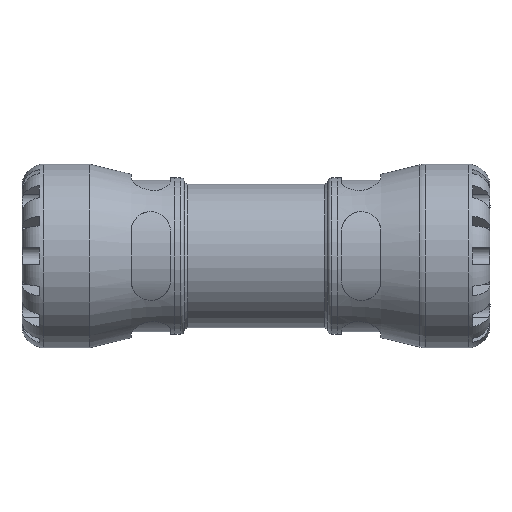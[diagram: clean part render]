
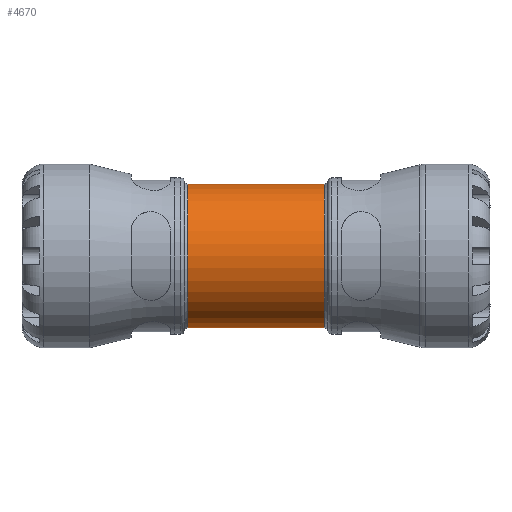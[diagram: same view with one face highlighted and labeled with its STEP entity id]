
A CAD part, front view. The second image highlights one B-rep face of the part: STEP entity #4670.
In plain terms, the highlighted cylindrical face has radius 40.17 mm (diameter 80.34 mm), a full revolution.
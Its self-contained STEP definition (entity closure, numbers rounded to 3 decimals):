
#684=FACE_BOUND('',#1119,.T.);
#685=FACE_BOUND('',#1120,.T.);
#732=CYLINDRICAL_SURFACE('',#4960,40.17);
#830=FACE_OUTER_BOUND('',#1118,.T.);
#1118=EDGE_LOOP('',(#3021));
#1119=EDGE_LOOP('',(#3022));
#1120=EDGE_LOOP('',(#3023));
#1451=B_SPLINE_CURVE_WITH_KNOTS('',3,(#6934,#6935,#6936,#6937,#6938,#6939,
#6940,#6941,#6942,#6943,#6944,#6945,#6946,#6947,#6948,#6949,#6950,#6951,
#6952,#6953,#6954,#6955),.UNSPECIFIED.,.T.,.F.,(4,1,1,1,1,1,1,1,1,1,1,1,
1,1,1,1,1,1,1,4),(-14.002,-13.502,-13.002,
-12.002,-11.335,-10.668,-10.002,
-9.335,-8.668,-8.001,-7.334,
-6.668,-6.001,-4.667,-4.001,
-3.,-2.,-1.,-0.5,
0.),.UNSPECIFIED.);
#1647=CIRCLE('',#4961,40.17);
#1648=CIRCLE('',#4962,40.17);
#1892=VERTEX_POINT('',#6909);
#1895=VERTEX_POINT('',#6960);
#1896=VERTEX_POINT('',#6962);
#2335=EDGE_CURVE('',#1892,#1892,#1451,.T.);
#2337=EDGE_CURVE('',#1895,#1895,#1647,.T.);
#2338=EDGE_CURVE('',#1896,#1896,#1648,.T.);
#3021=ORIENTED_EDGE('',*,*,#2337,.F.);
#3022=ORIENTED_EDGE('',*,*,#2338,.F.);
#3023=ORIENTED_EDGE('',*,*,#2335,.F.);
#4670=ADVANCED_FACE('',(#830,#684,#685),#732,.T.);
#4960=AXIS2_PLACEMENT_3D('',#6959,#5498,#5499);
#4961=AXIS2_PLACEMENT_3D('',#6961,#5500,#5501);
#4962=AXIS2_PLACEMENT_3D('',#6963,#5502,#5503);
#5498=DIRECTION('center_axis',(1.,0.,0.));
#5499=DIRECTION('ref_axis',(0.,1.,0.));
#5500=DIRECTION('center_axis',(-1.,0.,0.));
#5501=DIRECTION('ref_axis',(0.,1.,0.));
#5502=DIRECTION('center_axis',(1.,0.,0.));
#5503=DIRECTION('ref_axis',(0.,1.,0.));
#6909=CARTESIAN_POINT('',(0.,32.893,23.059));
#6934=CARTESIAN_POINT('Ctrl Pts',(0.,32.892,
23.059));
#6935=CARTESIAN_POINT('Ctrl Pts',(1.812,32.892,23.059));
#6936=CARTESIAN_POINT('Ctrl Pts',(5.436,33.185,22.649));
#6937=CARTESIAN_POINT('Ctrl Pts',(12.146,34.736,20.299));
#6938=CARTESIAN_POINT('Ctrl Pts',(18.085,37.233,15.659));
#6939=CARTESIAN_POINT('Ctrl Pts',(22.279,39.399,8.725));
#6940=CARTESIAN_POINT('Ctrl Pts',(23.956,40.345,1.804));
#6941=CARTESIAN_POINT('Ctrl Pts',(23.385,40.017,-5.35));
#6942=CARTESIAN_POINT('Ctrl Pts',(20.693,38.551,-11.848));
#6943=CARTESIAN_POINT('Ctrl Pts',(16.3,36.442,-17.156));
#6944=CARTESIAN_POINT('Ctrl Pts',(10.552,34.297,-21.012));
#6945=CARTESIAN_POINT('Ctrl Pts',(3.693,32.836,-23.146));
#6946=CARTESIAN_POINT('Ctrl Pts',(-3.694,32.83,-23.146));
#6947=CARTESIAN_POINT('Ctrl Pts',(-12.833,34.8,-20.301));
#6948=CARTESIAN_POINT('Ctrl Pts',(-19.781,38.062,-14.012));
#6949=CARTESIAN_POINT('Ctrl Pts',(-23.851,40.271,-4.271));
#6950=CARTESIAN_POINT('Ctrl Pts',(-23.841,40.276,5.495));
#6951=CARTESIAN_POINT('Ctrl Pts',(-18.99,37.611,14.96));
#6952=CARTESIAN_POINT('Ctrl Pts',(-12.149,34.738,20.294));
#6953=CARTESIAN_POINT('Ctrl Pts',(-5.434,33.184,22.65));
#6954=CARTESIAN_POINT('Ctrl Pts',(-1.812,32.892,23.059));
#6955=CARTESIAN_POINT('Ctrl Pts',(0.,32.892,
23.059));
#6959=CARTESIAN_POINT('Origin',(20.085,0.,0.));
#6960=CARTESIAN_POINT('',(-38.142,-40.17,0.));
#6961=CARTESIAN_POINT('Origin',(-38.142,0.,0.));
#6962=CARTESIAN_POINT('',(38.142,-40.17,0.));
#6963=CARTESIAN_POINT('Origin',(38.142,0.,0.));
